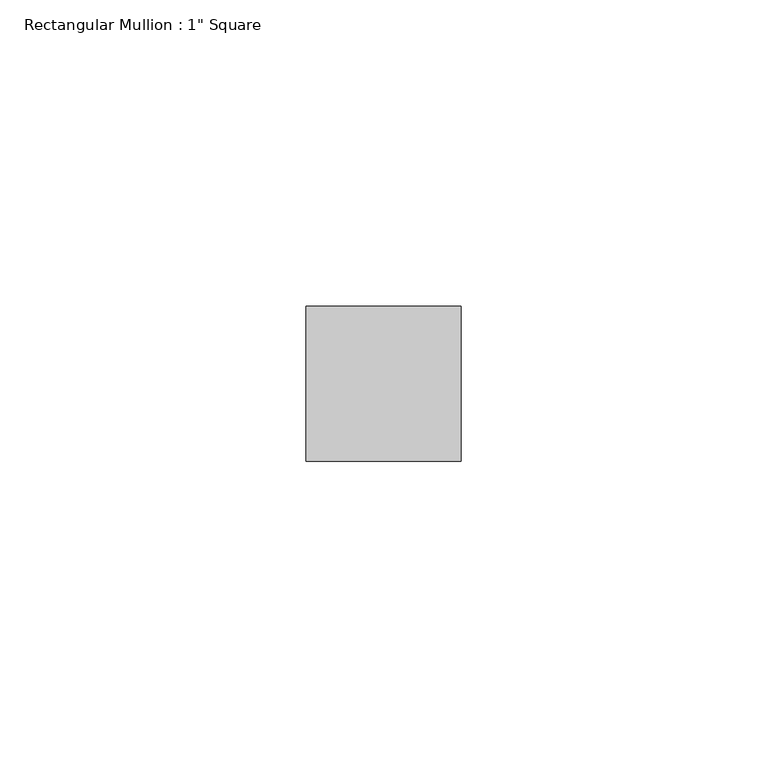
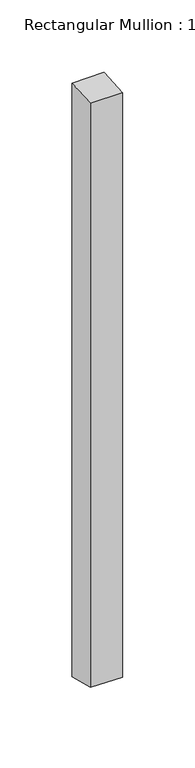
"""IFC4 building model written with IfcOpenShell, lengths in millimetres: member geometry."""

import ifcopenshell
import ifcopenshell.guid

model = None  # the IFC model being written
_history = None  # IfcOwnerHistory: only IFC2X3 demands one
_inside = {}  # id of a spatial element -> (the spatial element, [elements in it])
_under = {}  # id of a project, library or spatial element -> (it, [spatial elements below it])
_declared = {}  # id of a project -> (the project, [libraries it declares])
_typed = {}  # id of a type object -> (the type object, [elements of that type])
_made_of = {}  # id of a material, layer set ... -> (it, [elements and type objects made of it])


def new_model(schema):
    """Start an empty IFC model of exactly this schema.

    Asked for "IFC4X3", IfcOpenShell would pick the latest addendum, in which some entities
    have other attributes; the version numbers below select the first issue.
    IFC2X3 requires an IfcOwnerHistory on every rooted entity: one is made here for all.
    """
    global model, _history
    if schema == "IFC4X3":
        model = ifcopenshell.file(schema_version=(4, 3, 0, 0))
    else:
        model = ifcopenshell.file(schema=schema)
    _inside.clear()
    _under.clear()
    _declared.clear()
    _typed.clear()
    _made_of.clear()
    _history = None
    if model.schema == "IFC2X3":
        org = make("IfcOrganization", Name="unknown")
        user = make(
            "IfcPersonAndOrganization",
            ThePerson=make("IfcPerson", FamilyName="unknown"),
            TheOrganization=org,
        )
        app = make(
            "IfcApplication",
            ApplicationDeveloper=org,
            Version="unknown",
            ApplicationFullName="unknown",
            ApplicationIdentifier="unknown",
        )
        _history = make(
            "IfcOwnerHistory",
            OwningUser=user,
            OwningApplication=app,
            ChangeAction="ADDED",
            CreationDate=0,
        )
    return model


def make(cls, **values):
    """One entity of the class cls with the attributes given. An attribute that is None is left unset."""
    return model.create_entity(
        cls, **{name: value for name, value in values.items() if value is not None}
    )


def rooted(cls, **values):
    """An entity with a GlobalId (a new one), such as an element, a storey or a relation."""
    return make(cls, GlobalId=ifcopenshell.guid.new(), OwnerHistory=_history, **values)


def si_unit(unit_type, name, prefix=None):
    """IfcSIUnit, for example si_unit("LENGTHUNIT", "METRE", prefix="MILLI")."""
    return make("IfcSIUnit", UnitType=unit_type, Prefix=prefix, Name=name)


def assignment(units):
    """IfcUnitAssignment: the units of a project."""
    return None if units is None else make("IfcUnitAssignment", Units=units)


def point(xyz):
    """IfcCartesianPoint."""
    return None if xyz is None else make("IfcCartesianPoint", Coordinates=xyz)


def direction(xyz):
    """IfcDirection."""
    return None if xyz is None else make("IfcDirection", DirectionRatios=xyz)


def frame(location, z_axis=None, x_axis=None):
    """IfcAxis2Placement3D, a coordinate frame: its origin and axes. An axis left out is left unset."""
    return make(
        "IfcAxis2Placement3D",
        Location=point(location),
        Axis=direction(z_axis),
        RefDirection=direction(x_axis),
    )


def origin():
    """The frame at (0, 0, 0) with its axes left unset."""
    return frame((0.0, 0.0, 0.0))


def place(relative_to, where):
    """IfcLocalPlacement: puts the frame where relative to a parent placement (None: the world)."""
    return make(
        "IfcLocalPlacement", PlacementRelTo=relative_to, RelativePlacement=where
    )


def context(
    kind, dimensions, precision=None, world=None, true_north=None, identifier=None
):
    """IfcGeometricRepresentationContext, for example the 3D "Model" context."""
    return make(
        "IfcGeometricRepresentationContext",
        ContextIdentifier=identifier,
        ContextType=kind,
        CoordinateSpaceDimension=dimensions,
        Precision=precision,
        WorldCoordinateSystem=world,
        TrueNorth=true_north,
    )


def project(units=None, contexts=None):
    """IfcProject with its units and contexts."""
    return rooted(
        "IfcProject",
        Name="project",
        RepresentationContexts=contexts,
        UnitsInContext=assignment(units),
    )


def spatial(cls, under=None, at=None, **own):
    """A site, building, storey or space (cls), placed at a placement, below another one or the project."""
    s = rooted(cls, ObjectPlacement=at, **own)
    if under is not None:
        _under.setdefault(under.id(), (under, []))[1].append(s)
    return s


def faces_of(points, faces, orient=None, outer=None):
    """IfcFace entities. A face is a list of loops; a loop is a list of indices into points, from 0.

    orient and outer hold one flag for each loop. By default every Orientation is true, the
    first loop of a face is its IfcFaceOuterBound and the others are IfcFaceBound.
    """
    made = []
    for i, loops in enumerate(faces):
        bounds = []
        for j, loop in enumerate(loops):
            is_outer = j == 0 if outer is None else outer[i][j]
            bounds.append(
                make(
                    "IfcFaceOuterBound" if is_outer else "IfcFaceBound",
                    Bound=make("IfcPolyLoop", Polygon=[points[k] for k in loop]),
                    Orientation=True if orient is None else orient[i][j],
                )
            )
        made.append(make("IfcFace", Bounds=bounds))
    return made


def faceted_brep(points, faces, orient=None, outer=None, voids=None):
    """IfcFacetedBrep: a solid bounded by flat faces; with voids (closed shells), ...WithVoids."""
    shared = [point(p) for p in points]
    hull = make("IfcClosedShell", CfsFaces=faces_of(shared, faces, orient, outer))
    if voids is None:
        return make("IfcFacetedBrep", Outer=hull)
    return make(
        "IfcFacetedBrepWithVoids",
        Outer=hull,
        Voids=[
            make(cls, CfsFaces=faces_of(shared, fs, o, b)) for cls, fs, o, b in voids
        ],
    )


def shape(context_of_items, identifier, shape_type, items):
    """IfcShapeRepresentation: the items that make up one representation, for example the "Body"."""
    return make(
        "IfcShapeRepresentation",
        ContextOfItems=context_of_items,
        RepresentationIdentifier=identifier,
        RepresentationType=shape_type,
        Items=items,
    )


def source(mapping_origin, context_of_items, identifier, shape_type, items):
    """IfcRepresentationMap: a shape defined once, which mapped items show again and again."""
    return make(
        "IfcRepresentationMap",
        MappingOrigin=mapping_origin,
        MappedRepresentation=shape(context_of_items, identifier, shape_type, items),
    )


def transform(
    local_origin,
    x_axis=None,
    y_axis=None,
    z_axis=None,
    scale=None,
    scale2=None,
    scale3=None,
    uniform=True,
):
    """IfcCartesianTransformationOperator3D, or its non-uniform kind. x_axis, y_axis, z_axis: its Axis1, 2, 3."""
    if uniform:
        return make(
            "IfcCartesianTransformationOperator3D",
            Axis1=direction(x_axis),
            Axis2=direction(y_axis),
            LocalOrigin=point(local_origin),
            Scale=scale,
            Axis3=direction(z_axis),
        )
    return make(
        "IfcCartesianTransformationOperator3DnonUniform",
        Axis1=direction(x_axis),
        Axis2=direction(y_axis),
        LocalOrigin=point(local_origin),
        Scale=scale,
        Axis3=direction(z_axis),
        Scale2=scale2,
        Scale3=scale3,
    )


def mapped(mapping_source, mapping_target):
    """IfcMappedItem: shows the shape of a source again, moved by a transform."""
    return make(
        "IfcMappedItem", MappingSource=mapping_source, MappingTarget=mapping_target
    )


def made_of(thing, what):
    """Note that an element or type object is made of a material, layer set ...; save() writes the relation."""
    if what is not None:
        _made_of.setdefault(what.id(), (what, []))[1].append(thing)
    return thing


def element(
    cls,
    number,
    at=None,
    inside=None,
    cuts=None,
    type_object=None,
    material=None,
    context=None,
    identifier="Body",
    shape_type=None,
    held_by="IfcProductDefinitionShape",
    body=None,
    shapes=None,
    **own,
):
    """One element of the class cls, such as IfcWall. Its Tag is "e" and its number.

    at: its placement. inside: the storey or other place that contains it. cuts: it is an
    opening in that element (IfcRelVoidsElement). A single representation is given by context,
    identifier, shape_type and body (its items); several are given by shapes. held_by: the class
    of the entity that holds the representations. save() writes the other relations.
    """
    e = rooted(cls, Tag="e%d" % number, ObjectPlacement=at, **own)
    if body is not None:
        shapes = [shape(context, identifier, shape_type, body)]
    if shapes is not None:
        e.Representation = make(held_by, Representations=shapes)
    if inside is not None:
        _inside.setdefault(inside.id(), (inside, []))[1].append(e)
    if cuts is not None:
        rooted(
            "IfcRelVoidsElement", RelatingBuildingElement=cuts, RelatedOpeningElement=e
        )
    if type_object is not None:
        _typed.setdefault(type_object.id(), (type_object, []))[1].append(e)
    return made_of(e, material)


def aggregate(whole, parts):
    """IfcRelAggregates: a whole, such as a stair, and the parts it consists of."""
    return rooted("IfcRelAggregates", RelatingObject=whole, RelatedObjects=parts)


def save(model, path):
    """Write the relations noted so far, then the file.

    IfcRelAggregates (storeys below a building ...), IfcRelContainedInSpatialStructure (elements
    in a storey), IfcRelDefinesByType, IfcRelAssociatesMaterial and IfcRelDeclares: one each for
    every whole, place, type object, material and project.
    """
    for whole, parts in _under.values():
        aggregate(whole, parts)
    for where, things in _inside.values():
        rooted(
            "IfcRelContainedInSpatialStructure",
            RelatedElements=things,
            RelatingStructure=where,
        )
    for kind, things in _typed.values():
        rooted("IfcRelDefinesByType", RelatedObjects=things, RelatingType=kind)
    for what, things in _made_of.values():
        rooted("IfcRelAssociatesMaterial", RelatedObjects=things, RelatingMaterial=what)
    for by, libraries in _declared.values():
        rooted("IfcRelDeclares", RelatingContext=by, RelatedDefinitions=libraries)
    model.write(path)


def member_f53a45b1(model_context):
    return source(origin(), model_context, "Body", "Brep", [
        faceted_brep([(-25.4, 12.7, 0.7895134), (0.0, 12.7, 0.8730306), (0.0, 12.7, -500.045437), (-25.4, 12.7, -499.7261623), (-25.4, -12.7, -0.9565479), (-25.4, -12.7, -493.0512172), (0.0, -12.7, -0.8730306), (0.0, -12.7, -493.3704919)], [[[0, 1, 2, 3]], [[4, 0, 3, 5]], [[6, 4, 5, 7]], [[1, 6, 7, 2]], [[1, 0, 4, 6]], [[2, 7, 5, 3]]]),
    ])


if __name__ == "__main__":
    model = new_model("IFC4")
    model_context = context("Model", 3, world=origin())
    ifc_project = project(units=[si_unit("LENGTHUNIT", "METRE", prefix="MILLI")], contexts=[model_context])
    site = spatial("IfcSite", under=ifc_project)
    building = spatial("IfcBuilding", under=site)
    placement = place(None, origin())
    member_shape = member_f53a45b1(model_context)
    element("IfcMember", 1, ObjectType="Rectangular Mullion : 1\" Square", at=placement, inside=building, context=model_context, shape_type="MappedRepresentation", body=[
        mapped(member_shape, transform((0.0, 0.0, 0.0), x_axis=(1.0, 0.0, 0.0), y_axis=(0.0, 1.0, 0.0), z_axis=(0.0, 0.0, 1.0))),
    ])
    save(model, "model.ifc")
